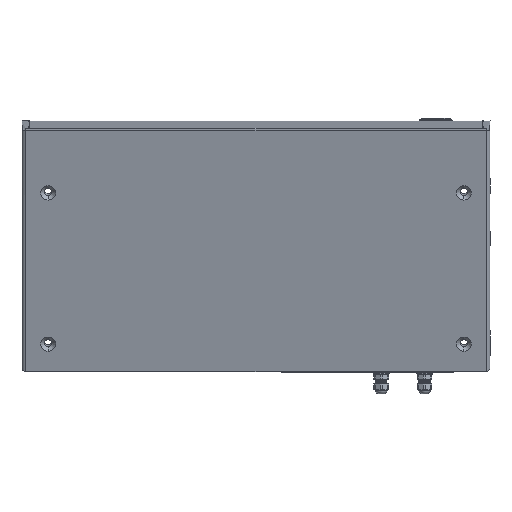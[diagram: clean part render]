
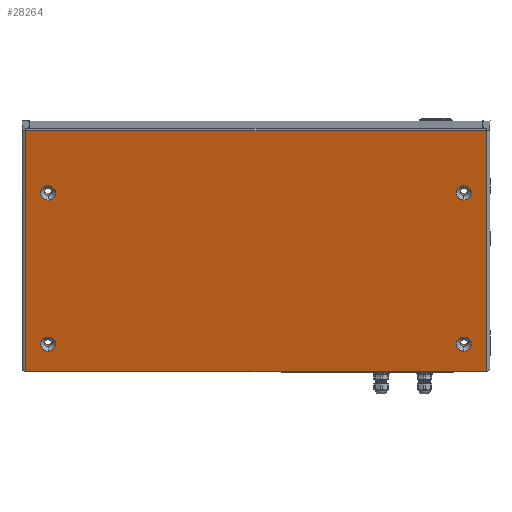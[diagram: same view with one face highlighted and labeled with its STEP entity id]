
A CAD part, left-side view. The second image highlights one B-rep face of the part: STEP entity #28264.
In plain terms, the highlighted planar face has unit normal (-0.966, 0, -0.259) as drawn and (1, 0, 0) by its records, which use the part's own axes.
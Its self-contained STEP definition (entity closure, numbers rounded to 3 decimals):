
#29 = CIRCLE ( 'NONE', #22941, 12.192 ) ;
#222 = DIRECTION ( 'NONE',  ( -1., 0., 0. ) ) ;
#452 = EDGE_CURVE ( 'NONE', #11026, #19672, #26056, .T. ) ;
#516 = FACE_BOUND ( 'NONE', #4729, .T. ) ;
#531 = EDGE_LOOP ( 'NONE', ( #12034, #27681, #28184, #16803 ) ) ;
#654 = CARTESIAN_POINT ( 'NONE',  ( 0., -341.351, 46.431 ) ) ;
#685 = DIRECTION ( 'NONE',  ( -1., 0., 0. ) ) ;
#847 = CARTESIAN_POINT ( 'NONE',  ( 0., 341.351, 58.623 ) ) ;
#1429 = CARTESIAN_POINT ( 'NONE',  ( 0., -341.351, 58.623 ) ) ;
#1667 = CARTESIAN_POINT ( 'NONE',  ( 0., 377.927, 0. ) ) ;
#1779 = EDGE_CURVE ( 'NONE', #24799, #24842, #7022, .T. ) ;
#1952 = EDGE_CURVE ( 'NONE', #4747, #2001, #9775, .T. ) ;
#2001 = VERTEX_POINT ( 'NONE', #15657 ) ;
#2580 = CARTESIAN_POINT ( 'NONE',  ( 0., 377.927, 409.672 ) ) ;
#2582 = VERTEX_POINT ( 'NONE', #16517 ) ;
#2795 = VERTEX_POINT ( 'NONE', #1429 ) ;
#4306 = CARTESIAN_POINT ( 'NONE',  ( 0., 377.927, 0. ) ) ;
#4593 = DIRECTION ( 'NONE',  ( -1., 0., 0. ) ) ;
#4729 = EDGE_LOOP ( 'NONE', ( #27437, #8875 ) ) ;
#4747 = VERTEX_POINT ( 'NONE', #7915 ) ;
#4773 = DIRECTION ( 'NONE',  ( 0., 0., -1. ) ) ;
#5203 = CIRCLE ( 'NONE', #9017, 12.192 ) ;
#5208 = EDGE_LOOP ( 'NONE', ( #25470, #25287 ) ) ;
#5217 = CARTESIAN_POINT ( 'NONE',  ( 0., 341.351, 303.606 ) ) ;
#6318 = DIRECTION ( 'NONE',  ( -1., 0., 0. ) ) ;
#6569 = CARTESIAN_POINT ( 'NONE',  ( 0., 341.351, 46.431 ) ) ;
#6926 = ORIENTED_EDGE ( 'NONE', *, *, #23418, .T. ) ;
#6943 = CARTESIAN_POINT ( 'NONE',  ( 0., -341.351, 46.431 ) ) ;
#7022 = LINE ( 'NONE', #25266, #22662 ) ;
#7308 = EDGE_CURVE ( 'NONE', #10851, #2582, #17799, .T. ) ;
#7560 = ORIENTED_EDGE ( 'NONE', *, *, #7308, .T. ) ;
#7828 = CARTESIAN_POINT ( 'NONE',  ( 0., 377.927, 409.672 ) ) ;
#7915 = CARTESIAN_POINT ( 'NONE',  ( 0., -341.351, 291.414 ) ) ;
#8056 = AXIS2_PLACEMENT_3D ( 'NONE', #6943, #20241, #20096 ) ;
#8284 = DIRECTION ( 'NONE',  ( -1., 0., 0. ) ) ;
#8774 = CARTESIAN_POINT ( 'NONE',  ( 0., 377.927, 0. ) ) ;
#8829 = ORIENTED_EDGE ( 'NONE', *, *, #26720, .T. ) ;
#8875 = ORIENTED_EDGE ( 'NONE', *, *, #452, .T. ) ;
#9017 = AXIS2_PLACEMENT_3D ( 'NONE', #23875, #6318, #15437 ) ;
#9031 = DIRECTION ( 'NONE',  ( 0., -1., 0. ) ) ;
#9087 = FACE_BOUND ( 'NONE', #26425, .T. ) ;
#9775 = CIRCLE ( 'NONE', #24592, 12.192 ) ;
#10803 = AXIS2_PLACEMENT_3D ( 'NONE', #22178, #8284, #26838 ) ;
#10851 = VERTEX_POINT ( 'NONE', #20874 ) ;
#11026 = VERTEX_POINT ( 'NONE', #847 ) ;
#11097 = AXIS2_PLACEMENT_3D ( 'NONE', #21155, #685, #27626 ) ;
#11875 = FACE_BOUND ( 'NONE', #5208, .T. ) ;
#12034 = ORIENTED_EDGE ( 'NONE', *, *, #1779, .T. ) ;
#13142 = AXIS2_PLACEMENT_3D ( 'NONE', #6569, #24961, #15684 ) ;
#13306 = CIRCLE ( 'NONE', #8056, 12.192 ) ;
#13393 = CARTESIAN_POINT ( 'NONE',  ( 0., 377.927, 0. ) ) ;
#13417 = DIRECTION ( 'NONE',  ( -1., 0., 0. ) ) ;
#13531 = LINE ( 'NONE', #13393, #22811 ) ;
#14522 = EDGE_CURVE ( 'NONE', #26969, #24842, #13531, .T. ) ;
#14700 = LINE ( 'NONE', #1667, #19413 ) ;
#14755 = EDGE_CURVE ( 'NONE', #19672, #11026, #22748, .T. ) ;
#15437 = DIRECTION ( 'NONE',  ( 0., 0., 1. ) ) ;
#15657 = CARTESIAN_POINT ( 'NONE',  ( 0., -341.351, 315.798 ) ) ;
#15660 = FACE_BOUND ( 'NONE', #21862, .T. ) ;
#15684 = DIRECTION ( 'NONE',  ( 0., 0., 1. ) ) ;
#15758 = EDGE_CURVE ( 'NONE', #25032, #24799, #27436, .T. ) ;
#16349 = PLANE ( 'NONE',  #20494 ) ;
#16517 = CARTESIAN_POINT ( 'NONE',  ( 0., 341.351, 291.414 ) ) ;
#16803 = ORIENTED_EDGE ( 'NONE', *, *, #15758, .T. ) ;
#17751 = CARTESIAN_POINT ( 'NONE',  ( 0., -341.351, 303.606 ) ) ;
#17799 = CIRCLE ( 'NONE', #11097, 12.192 ) ;
#17950 = CARTESIAN_POINT ( 'NONE',  ( 0., 341.351, 34.239 ) ) ;
#18282 = ORIENTED_EDGE ( 'NONE', *, *, #21493, .T. ) ;
#18600 = DIRECTION ( 'NONE',  ( 0., 0., 1. ) ) ;
#18654 = DIRECTION ( 'NONE',  ( -1., 0., 0. ) ) ;
#19413 = VECTOR ( 'NONE', #28761, 1000. ) ;
#19672 = VERTEX_POINT ( 'NONE', #17950 ) ;
#20096 = DIRECTION ( 'NONE',  ( 0., 0., 1. ) ) ;
#20241 = DIRECTION ( 'NONE',  ( -1., 0., 0. ) ) ;
#20438 = DIRECTION ( 'NONE',  ( 0., 0., 1. ) ) ;
#20494 = AXIS2_PLACEMENT_3D ( 'NONE', #8774, #13417, #18600 ) ;
#20874 = CARTESIAN_POINT ( 'NONE',  ( 0., 341.351, 315.798 ) ) ;
#21047 = EDGE_CURVE ( 'NONE', #25032, #26969, #14700, .T. ) ;
#21155 = CARTESIAN_POINT ( 'NONE',  ( 0., 341.351, 303.606 ) ) ;
#21267 = CIRCLE ( 'NONE', #22233, 12.192 ) ;
#21493 = EDGE_CURVE ( 'NONE', #2582, #10851, #21267, .T. ) ;
#21862 = EDGE_LOOP ( 'NONE', ( #8829, #6926 ) ) ;
#22178 = CARTESIAN_POINT ( 'NONE',  ( 0., 341.351, 46.431 ) ) ;
#22233 = AXIS2_PLACEMENT_3D ( 'NONE', #5217, #18654, #23142 ) ;
#22662 = VECTOR ( 'NONE', #4773, 1000. ) ;
#22681 = CARTESIAN_POINT ( 'NONE',  ( 0., -377.927, 0. ) ) ;
#22748 = CIRCLE ( 'NONE', #10803, 12.192 ) ;
#22811 = VECTOR ( 'NONE', #25354, 1000. ) ;
#22941 = AXIS2_PLACEMENT_3D ( 'NONE', #654, #222, #25478 ) ;
#23142 = DIRECTION ( 'NONE',  ( 0., 0., 1. ) ) ;
#23418 = EDGE_CURVE ( 'NONE', #2795, #27045, #29, .T. ) ;
#23875 = CARTESIAN_POINT ( 'NONE',  ( 0., -341.351, 303.606 ) ) ;
#24178 = VECTOR ( 'NONE', #9031, 1000. ) ;
#24592 = AXIS2_PLACEMENT_3D ( 'NONE', #17751, #4593, #20438 ) ;
#24631 = CARTESIAN_POINT ( 'NONE',  ( 0., -377.927, 409.672 ) ) ;
#24786 = FACE_OUTER_BOUND ( 'NONE', #531, .T. ) ;
#24799 = VERTEX_POINT ( 'NONE', #24631 ) ;
#24842 = VERTEX_POINT ( 'NONE', #22681 ) ;
#24961 = DIRECTION ( 'NONE',  ( -1., 0., 0. ) ) ;
#25032 = VERTEX_POINT ( 'NONE', #7828 ) ;
#25266 = CARTESIAN_POINT ( 'NONE',  ( 0., -377.927, 0. ) ) ;
#25287 = ORIENTED_EDGE ( 'NONE', *, *, #27506, .T. ) ;
#25354 = DIRECTION ( 'NONE',  ( 0., -1., 0. ) ) ;
#25470 = ORIENTED_EDGE ( 'NONE', *, *, #1952, .T. ) ;
#25478 = DIRECTION ( 'NONE',  ( 0., 0., 1. ) ) ;
#26056 = CIRCLE ( 'NONE', #13142, 12.192 ) ;
#26425 = EDGE_LOOP ( 'NONE', ( #18282, #7560 ) ) ;
#26720 = EDGE_CURVE ( 'NONE', #27045, #2795, #13306, .T. ) ;
#26754 = CARTESIAN_POINT ( 'NONE',  ( 0., -341.351, 34.239 ) ) ;
#26838 = DIRECTION ( 'NONE',  ( 0., 0., 1. ) ) ;
#26969 = VERTEX_POINT ( 'NONE', #4306 ) ;
#27045 = VERTEX_POINT ( 'NONE', #26754 ) ;
#27436 = LINE ( 'NONE', #2580, #24178 ) ;
#27437 = ORIENTED_EDGE ( 'NONE', *, *, #14755, .T. ) ;
#27506 = EDGE_CURVE ( 'NONE', #2001, #4747, #5203, .T. ) ;
#27626 = DIRECTION ( 'NONE',  ( 0., 0., 1. ) ) ;
#27681 = ORIENTED_EDGE ( 'NONE', *, *, #14522, .F. ) ;
#28184 = ORIENTED_EDGE ( 'NONE', *, *, #21047, .F. ) ;
#28264 = ADVANCED_FACE ( 'NONE', ( #15660, #11875, #516, #9087, #24786 ), #16349, .F. ) ;
#28761 = DIRECTION ( 'NONE',  ( 0., 0., -1. ) ) ;
